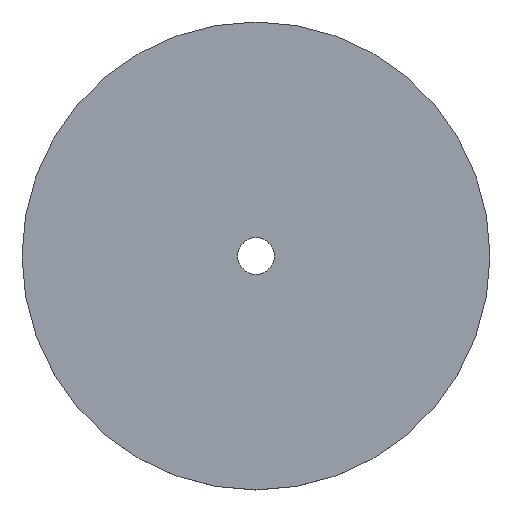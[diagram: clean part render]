
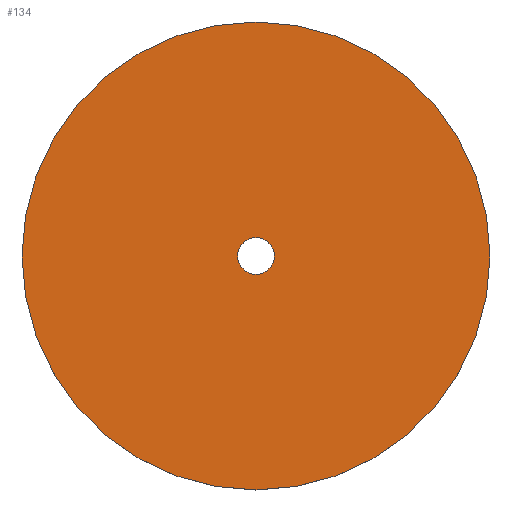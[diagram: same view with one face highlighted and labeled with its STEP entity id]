
A CAD part, top view. The second image highlights one B-rep face of the part: STEP entity #134.
In plain terms, the highlighted planar face has unit normal (0, 0, 1).
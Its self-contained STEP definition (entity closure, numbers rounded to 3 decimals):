
#29=CARTESIAN_POINT('',(0.,0.,0.7));
#30=DIRECTION('',(0.,0.,1.));
#31=DIRECTION('',(1.,0.,0.));
#32=AXIS2_PLACEMENT_3D('',#29,#30,#31);
#34=CARTESIAN_POINT('',(0.,0.,0.7));
#35=DIRECTION('',(0.,0.,1.));
#36=DIRECTION('',(-1.,0.,0.));
#37=AXIS2_PLACEMENT_3D('',#34,#35,#36);
#39=CARTESIAN_POINT('',(0.,0.,0.7));
#40=DIRECTION('',(0.,0.,1.));
#41=DIRECTION('',(1.,0.,0.));
#42=AXIS2_PLACEMENT_3D('',#39,#40,#41);
#44=CARTESIAN_POINT('',(0.,0.,0.7));
#45=DIRECTION('',(0.,0.,1.));
#46=DIRECTION('',(-1.,0.,0.));
#47=AXIS2_PLACEMENT_3D('',#44,#45,#46);
#61=CARTESIAN_POINT('',(6.35,0.,0.7));
#62=CARTESIAN_POINT('',(-6.35,0.,0.7));
#63=VERTEX_POINT('',#61);
#64=VERTEX_POINT('',#62);
#69=CARTESIAN_POINT('',(0.5,0.,0.7));
#70=CARTESIAN_POINT('',(-0.5,0.,0.7));
#71=VERTEX_POINT('',#69);
#72=VERTEX_POINT('',#70);
#119=CARTESIAN_POINT('',(0.,0.,0.7));
#120=DIRECTION('',(0.,0.,1.));
#121=DIRECTION('',(1.,0.,0.));
#122=AXIS2_PLACEMENT_3D('',#119,#120,#121);
#123=PLANE('',#122);
#124=ORIENTED_EDGE('',*,*,#99,.F.);
#125=ORIENTED_EDGE('',*,*,#113,.F.);
#126=EDGE_LOOP('',(#124,#125));
#127=FACE_OUTER_BOUND('',#126,.F.);
#129=ORIENTED_EDGE('',*,*,#128,.T.);
#131=ORIENTED_EDGE('',*,*,#130,.T.);
#132=EDGE_LOOP('',(#129,#131));
#133=FACE_BOUND('',#132,.F.);
#134=ADVANCED_FACE('',(#127,#133),#123,.T.);
#33=CIRCLE('',#32,6.35);
#38=CIRCLE('',#37,6.35);
#43=CIRCLE('',#42,0.5);
#48=CIRCLE('',#47,0.5);
#99=EDGE_CURVE('',#63,#64,#33,.T.);
#113=EDGE_CURVE('',#64,#63,#38,.T.);
#128=EDGE_CURVE('',#71,#72,#43,.T.);
#130=EDGE_CURVE('',#72,#71,#48,.T.);
